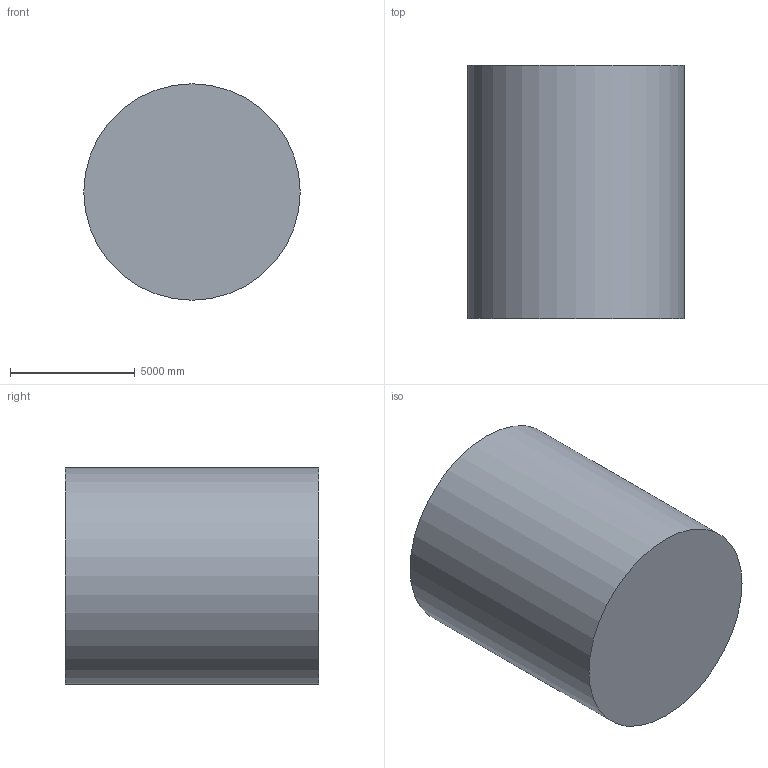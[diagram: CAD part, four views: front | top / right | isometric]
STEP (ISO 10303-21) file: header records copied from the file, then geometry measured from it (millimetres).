
FILE_DESCRIPTION(/* description */ (''),/* implementation_level */ '2;1');
FILE_NAME(/* name */ 'NTF_Arc_Sector_Rotational_Axis_Cylinder_2023_10_02.stp',/* time_stamp */ '2023-10-02T14:30:09-04:00',/* author */ (''),/* organization */ (''),/* preprocessor_version */ 'ST-DEVELOPER v16.7',/* originating_system */ 'SIEMENS PLM Software NX 12.0',/* authorisation */ '');
FILE_SCHEMA (('AUTOMOTIVE_DESIGN { 1 0 10303 214 3 1 1 1 }'));
Length unit declared in the file: inch
Products named in the file (1): sbry3178F678wn65
Bounding box: 8686.8 x 10160 x 8686.8 mm (x, y, z)
Volume: 602147981225.2 mm3; surface area: 395803399.7 mm2
Topology: 1 solids, 1 shells, 3 faces, 3 edges, 2 vertices
Faces by surface type: plane 2, cylinder 1
Full cylindrical faces by diameter (mm): 8686.8 x1
Entity records: 88 total; most frequent: DIRECTION 12, CARTESIAN_POINT 8, AXIS2_PLACEMENT_3D 6, EDGE_LOOP 4, ORIENTED_EDGE 4, ADVANCED_FACE 3, PROPERTY_DEFINITION_REPRESENTATION 2, REPRESENTATION 2
